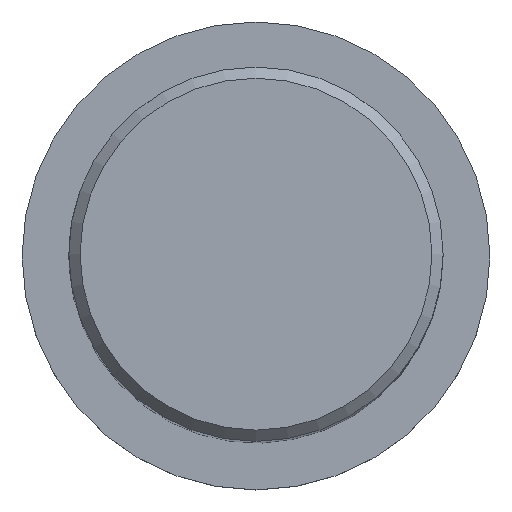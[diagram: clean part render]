
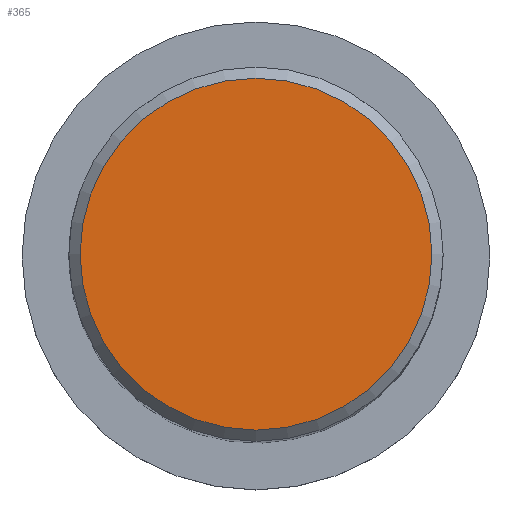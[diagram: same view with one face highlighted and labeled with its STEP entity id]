
A CAD part, top view. The second image highlights one B-rep face of the part: STEP entity #365.
In plain terms, the highlighted planar face has unit normal (0, 0, 1).
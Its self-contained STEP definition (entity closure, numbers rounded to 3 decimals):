
#61 = CONICAL_SURFACE('',#62,5.,0.785);
#62 = AXIS2_PLACEMENT_3D('',#63,#64,#65);
#63 = CARTESIAN_POINT('',(0.,0.,32.2));
#64 = DIRECTION('',(-0.,-0.,-1.));
#65 = DIRECTION('',(1.,0.,0.));
#228 = VERTEX_POINT('',#229);
#229 = CARTESIAN_POINT('',(4.7,0.,32.5));
#250 = EDGE_CURVE('',#228,#228,#251,.T.);
#251 = SURFACE_CURVE('',#252,(#257,#264),.PCURVE_S1.);
#252 = CIRCLE('',#253,4.7);
#253 = AXIS2_PLACEMENT_3D('',#254,#255,#256);
#254 = CARTESIAN_POINT('',(0.,0.,32.5));
#255 = DIRECTION('',(0.,0.,1.));
#256 = DIRECTION('',(1.,0.,-0.));
#257 = PCURVE('',#61,#258);
#258 = DEFINITIONAL_REPRESENTATION('',(#259),#263);
#259 = LINE('',#260,#261);
#260 = CARTESIAN_POINT('',(-0.,-0.3));
#261 = VECTOR('',#262,1.);
#262 = DIRECTION('',(-1.,-0.));
#263 = ( GEOMETRIC_REPRESENTATION_CONTEXT(2) 
PARAMETRIC_REPRESENTATION_CONTEXT() REPRESENTATION_CONTEXT('2D SPACE',''
  ) );
#264 = PCURVE('',#265,#270);
#265 = PLANE('',#266);
#266 = AXIS2_PLACEMENT_3D('',#267,#268,#269);
#267 = CARTESIAN_POINT('',(0.,0.,32.5));
#268 = DIRECTION('',(0.,0.,1.));
#269 = DIRECTION('',(1.,0.,-0.));
#270 = DEFINITIONAL_REPRESENTATION('',(#271),#275);
#271 = CIRCLE('',#272,4.7);
#272 = AXIS2_PLACEMENT_2D('',#273,#274);
#273 = CARTESIAN_POINT('',(0.,0.));
#274 = DIRECTION('',(1.,0.));
#275 = ( GEOMETRIC_REPRESENTATION_CONTEXT(2) 
PARAMETRIC_REPRESENTATION_CONTEXT() REPRESENTATION_CONTEXT('2D SPACE',''
  ) );
#365 = ADVANCED_FACE('',(#366),#265,.T.);
#366 = FACE_BOUND('',#367,.T.);
#367 = EDGE_LOOP('',(#368));
#368 = ORIENTED_EDGE('',*,*,#250,.T.);
